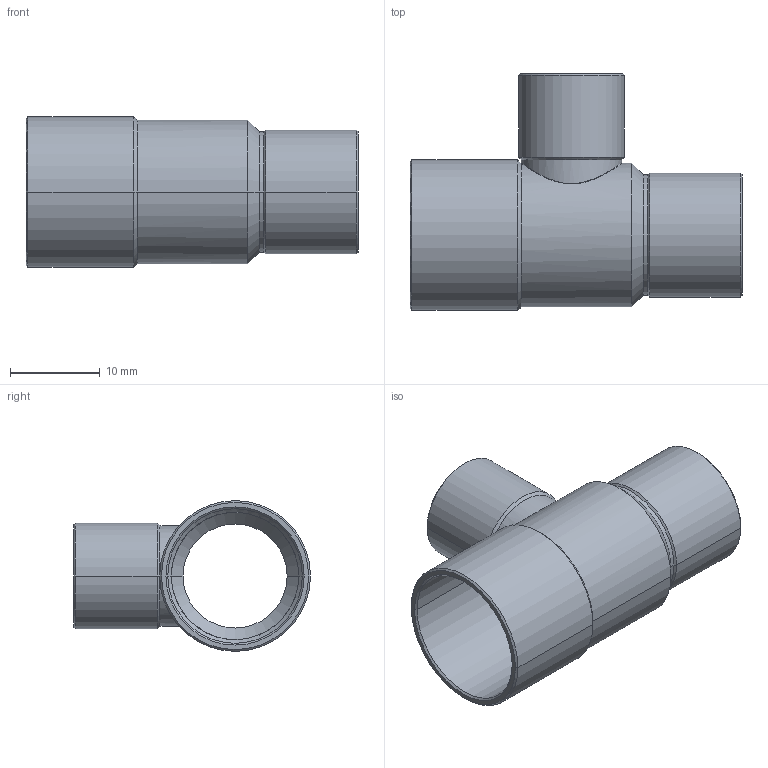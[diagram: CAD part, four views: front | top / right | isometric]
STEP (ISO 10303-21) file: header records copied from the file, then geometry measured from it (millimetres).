
FILE_DESCRIPTION((''),'2;1');
FILE_NAME('P:\Bouwmaten\z-maattekeningen 3D\5000\5130\5130151012.stp','2005-10-26T11:52:42',('Kris'),(''),'Autodesk Inventor 8','Autodesk Inventor 8','');
FILE_SCHEMA(('AUTOMOTIVE_DESIGN { 1 0 10303 214 1 1 1 1 }'));
Length unit declared in the file: millimetre
Products named in the file (1): 5130151012
Bounding box: 37 x 26.4 x 16.8 mm (x, y, z)
Volume: 1819.2 mm3; surface area: 4151.4 mm2
Topology: 1 solids, 1 shells, 57 faces, 126 edges, 70 vertices
Faces by surface type: cone 28, cylinder 24, plane 3, bspline 2
Entity records: 2064 total; most frequent: CARTESIAN_POINT 785, DIRECTION 278, ORIENTED_EDGE 252, EDGE_CURVE 126, AXIS2_PLACEMENT_3D 113, VERTEX_POINT 70, EDGE_LOOP 60, CIRCLE 57
